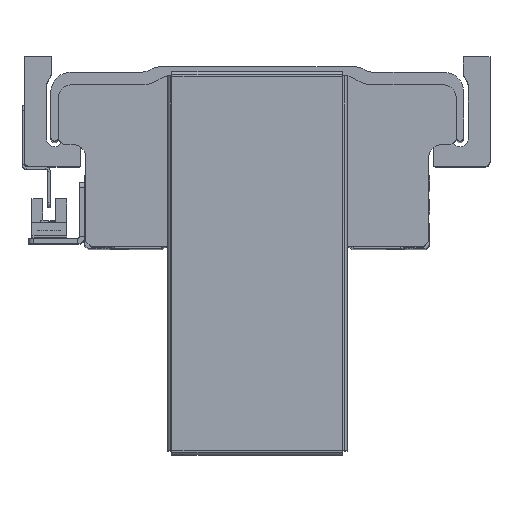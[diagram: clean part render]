
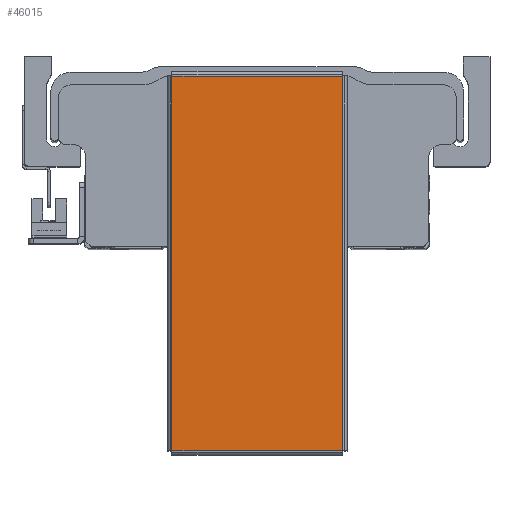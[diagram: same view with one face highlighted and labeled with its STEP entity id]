
A CAD part, top view. The second image highlights one B-rep face of the part: STEP entity #46015.
In plain terms, the highlighted planar face has unit normal (0, 0, 1) as drawn and (0, -1, 0) by its records, which use the part's own axes.
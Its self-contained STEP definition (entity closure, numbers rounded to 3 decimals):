
#7209 = EDGE_LOOP ( 'NONE', ( #23693, #23732, #23674, #23682 ) ) ;
#8560 = VERTEX_POINT ( 'NONE', #27230 ) ;
#8576 = VERTEX_POINT ( 'NONE', #27247 ) ;
#8583 = VERTEX_POINT ( 'NONE', #27296 ) ;
#8626 = VERTEX_POINT ( 'NONE', #27318 ) ;
#16454 = FACE_OUTER_BOUND ( 'NONE', #7209, .T. ) ;
#19644 = DIRECTION ( 'NONE',  ( 0., 1., 0. ) ) ;
#19648 = PLANE ( 'NONE',  #40105 ) ;
#19663 = CARTESIAN_POINT ( 'NONE',  ( 0., -1., 0. ) ) ;
#19684 = DIRECTION ( 'NONE',  ( 0., 0., 1. ) ) ;
#23674 = ORIENTED_EDGE ( 'NONE', *, *, #27813, .T. ) ;
#23682 = ORIENTED_EDGE ( 'NONE', *, *, #27925, .T. ) ;
#23693 = ORIENTED_EDGE ( 'NONE', *, *, #27819, .T. ) ;
#23732 = ORIENTED_EDGE ( 'NONE', *, *, #27845, .T. ) ;
#27230 = CARTESIAN_POINT ( 'NONE',  ( 73.263, -1., -33.363 ) ) ;
#27247 = CARTESIAN_POINT ( 'NONE',  ( 73.263, -1., 33.363 ) ) ;
#27296 = CARTESIAN_POINT ( 'NONE',  ( -73.263, -1., -33.363 ) ) ;
#27318 = CARTESIAN_POINT ( 'NONE',  ( -73.263, -1., 33.363 ) ) ;
#27813 = EDGE_CURVE ( 'NONE', #8583, #8560, #35326, .T. ) ;
#27819 = EDGE_CURVE ( 'NONE', #8576, #8626, #35500, .T. ) ;
#27845 = EDGE_CURVE ( 'NONE', #8626, #8583, #35513, .T. ) ;
#27925 = EDGE_CURVE ( 'NONE', #8560, #8576, #35936, .T. ) ;
#34539 = CARTESIAN_POINT ( 'NONE',  ( -73.293, -1., -33.363 ) ) ;
#34544 = DIRECTION ( 'NONE',  ( 1., 0., 0. ) ) ;
#34553 = CARTESIAN_POINT ( 'NONE',  ( 73.293, -1., 33.363 ) ) ;
#34597 = DIRECTION ( 'NONE',  ( -1., 0., 0. ) ) ;
#34688 = CARTESIAN_POINT ( 'NONE',  ( -73.263, -1., 33.393 ) ) ;
#34714 = DIRECTION ( 'NONE',  ( 0., 0., -1. ) ) ;
#35291 = CARTESIAN_POINT ( 'NONE',  ( 73.263, -1., -33.393 ) ) ;
#35313 = DIRECTION ( 'NONE',  ( 0., 0., 1. ) ) ;
#35326 = LINE ( 'NONE', #34539, #35356 ) ;
#35356 = VECTOR ( 'NONE', #34544, 1000. ) ;
#35488 = VECTOR ( 'NONE', #34597, 1000. ) ;
#35500 = LINE ( 'NONE', #34553, #35488 ) ;
#35513 = LINE ( 'NONE', #34688, #35516 ) ;
#35516 = VECTOR ( 'NONE', #34714, 1000. ) ;
#35790 = VECTOR ( 'NONE', #35313, 1000. ) ;
#35936 = LINE ( 'NONE', #35291, #35790 ) ;
#40105 = AXIS2_PLACEMENT_3D ( 'NONE', #19663, #19644, #19684 ) ;
#46015 = ADVANCED_FACE ( 'NONE', ( #16454 ), #19648, .F. ) ;
